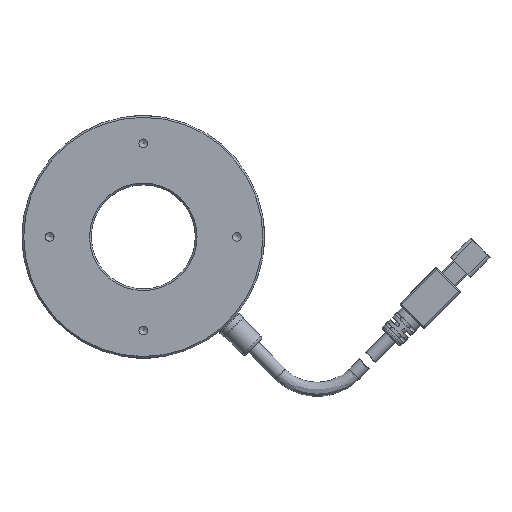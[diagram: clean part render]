
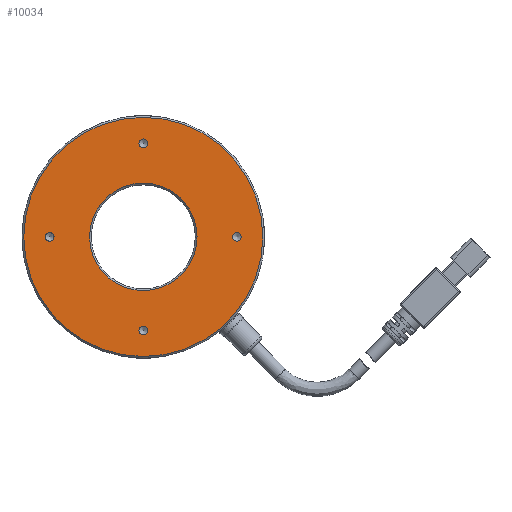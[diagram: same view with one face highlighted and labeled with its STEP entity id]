
A CAD part, front view. The second image highlights one B-rep face of the part: STEP entity #10034.
In plain terms, the highlighted planar face has unit normal (0, -1, 0).
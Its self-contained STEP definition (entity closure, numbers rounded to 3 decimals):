
#17 = CIRCLE ( 'NONE', #12586, 15.5 ) ;
#163 = FACE_BOUND ( 'NONE', #8763, .T. ) ;
#407 = ORIENTED_EDGE ( 'NONE', *, *, #4632, .F. ) ;
#595 = AXIS2_PLACEMENT_3D ( 'NONE', #3316, #4586, #13963 ) ;
#1009 = CARTESIAN_POINT ( 'NONE',  ( 33.265, 0.475, 25.75 ) ) ;
#1085 = FACE_OUTER_BOUND ( 'NONE', #7348, .T. ) ;
#1106 = CARTESIAN_POINT ( 'NONE',  ( 6.265, 0.475, -1.25 ) ) ;
#1134 = CIRCLE ( 'NONE', #10187, 1.25 ) ;
#1517 = ORIENTED_EDGE ( 'NONE', *, *, #5262, .F. ) ;
#1649 = CIRCLE ( 'NONE', #3307, 1.25 ) ;
#2130 = EDGE_LOOP ( 'NONE', ( #1517 ) ) ;
#2358 = PLANE ( 'NONE',  #2618 ) ;
#2535 = AXIS2_PLACEMENT_3D ( 'NONE', #4236, #10311, #10256 ) ;
#2618 = AXIS2_PLACEMENT_3D ( 'NONE', #10561, #4702, #9351 ) ;
#2753 = DIRECTION ( 'NONE',  ( 1., 0., 0. ) ) ;
#3307 = AXIS2_PLACEMENT_3D ( 'NONE', #12721, #11475, #7920 ) ;
#3316 = CARTESIAN_POINT ( 'NONE',  ( 60.265, 0.475, 0. ) ) ;
#3472 = CARTESIAN_POINT ( 'NONE',  ( 33.265, 0.475, -28.25 ) ) ;
#3666 = EDGE_CURVE ( 'NONE', #4167, #4167, #11366, .T. ) ;
#3788 = VERTEX_POINT ( 'NONE', #11681 ) ;
#3795 = DIRECTION ( 'NONE',  ( 0., 0., -1. ) ) ;
#4167 = VERTEX_POINT ( 'NONE', #8127 ) ;
#4236 = CARTESIAN_POINT ( 'NONE',  ( 33.265, 0.475, 0. ) ) ;
#4270 = FACE_BOUND ( 'NONE', #15146, .T. ) ;
#4528 = VERTEX_POINT ( 'NONE', #3472 ) ;
#4586 = DIRECTION ( 'NONE',  ( 0., -1., 0. ) ) ;
#4632 = EDGE_CURVE ( 'NONE', #14567, #14567, #5039, .T. ) ;
#4702 = DIRECTION ( 'NONE',  ( 0., -1., 0. ) ) ;
#5039 = CIRCLE ( 'NONE', #8168, 1.25 ) ;
#5262 = EDGE_CURVE ( 'NONE', #10670, #10670, #1649, .T. ) ;
#5842 = DIRECTION ( 'NONE',  ( 0., 0., -1. ) ) ;
#6100 = ORIENTED_EDGE ( 'NONE', *, *, #11717, .F. ) ;
#7079 = EDGE_LOOP ( 'NONE', ( #6100 ) ) ;
#7348 = EDGE_LOOP ( 'NONE', ( #13230 ) ) ;
#7533 = DIRECTION ( 'NONE',  ( 0., 1., 0. ) ) ;
#7836 = CIRCLE ( 'NONE', #2535, 34.5 ) ;
#7920 = DIRECTION ( 'NONE',  ( 0., 0., -1. ) ) ;
#8127 = CARTESIAN_POINT ( 'NONE',  ( 60.265, 0.475, -1.25 ) ) ;
#8168 = AXIS2_PLACEMENT_3D ( 'NONE', #14589, #10905, #3795 ) ;
#8667 = CARTESIAN_POINT ( 'NONE',  ( 33.265, 0.475, 0. ) ) ;
#8763 = EDGE_LOOP ( 'NONE', ( #407 ) ) ;
#9351 = DIRECTION ( 'NONE',  ( 0., 0., -1. ) ) ;
#10034 = ADVANCED_FACE ( 'NONE', ( #13730, #1085, #11525, #163, #13368, #4270 ), #2358, .T. ) ;
#10187 = AXIS2_PLACEMENT_3D ( 'NONE', #10552, #11807, #5842 ) ;
#10256 = DIRECTION ( 'NONE',  ( 0., 0., 1. ) ) ;
#10295 = EDGE_LOOP ( 'NONE', ( #11861 ) ) ;
#10311 = DIRECTION ( 'NONE',  ( 0., 1., 0. ) ) ;
#10552 = CARTESIAN_POINT ( 'NONE',  ( 33.265, 0.475, -27. ) ) ;
#10561 = CARTESIAN_POINT ( 'NONE',  ( -1.735, 0.475, 0. ) ) ;
#10670 = VERTEX_POINT ( 'NONE', #1009 ) ;
#10892 = ORIENTED_EDGE ( 'NONE', *, *, #3666, .F. ) ;
#10905 = DIRECTION ( 'NONE',  ( 0., -1., 0. ) ) ;
#11119 = EDGE_CURVE ( 'NONE', #3788, #3788, #7836, .T. ) ;
#11366 = CIRCLE ( 'NONE', #595, 1.25 ) ;
#11475 = DIRECTION ( 'NONE',  ( 0., -1., 0. ) ) ;
#11525 = FACE_BOUND ( 'NONE', #2130, .T. ) ;
#11681 = CARTESIAN_POINT ( 'NONE',  ( 33.265, 0.475, 34.5 ) ) ;
#11717 = EDGE_CURVE ( 'NONE', #4528, #4528, #1134, .T. ) ;
#11807 = DIRECTION ( 'NONE',  ( 0., -1., 0. ) ) ;
#11861 = ORIENTED_EDGE ( 'NONE', *, *, #11950, .T. ) ;
#11945 = CARTESIAN_POINT ( 'NONE',  ( 48.765, 0.475, 0. ) ) ;
#11950 = EDGE_CURVE ( 'NONE', #13460, #13460, #17, .T. ) ;
#12586 = AXIS2_PLACEMENT_3D ( 'NONE', #8667, #7533, #2753 ) ;
#12721 = CARTESIAN_POINT ( 'NONE',  ( 33.265, 0.475, 27. ) ) ;
#13230 = ORIENTED_EDGE ( 'NONE', *, *, #11119, .F. ) ;
#13368 = FACE_BOUND ( 'NONE', #7079, .T. ) ;
#13460 = VERTEX_POINT ( 'NONE', #11945 ) ;
#13730 = FACE_BOUND ( 'NONE', #10295, .T. ) ;
#13963 = DIRECTION ( 'NONE',  ( 0., 0., -1. ) ) ;
#14567 = VERTEX_POINT ( 'NONE', #1106 ) ;
#14589 = CARTESIAN_POINT ( 'NONE',  ( 6.265, 0.475, 0. ) ) ;
#15146 = EDGE_LOOP ( 'NONE', ( #10892 ) ) ;
